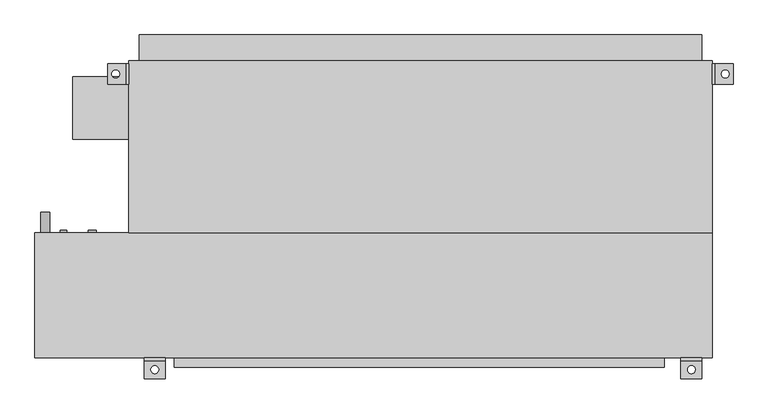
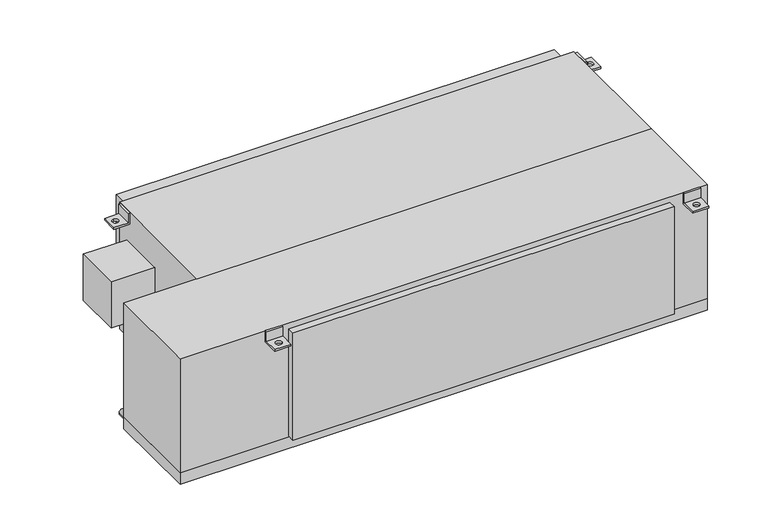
"""IFC4 building model written with IfcOpenShell, lengths in millimetres: proxy geometry, Concealed_High_Capacity_Horizontal_Fan_Coil_Unit_With_Plenum_-_42DCA_-_CARRIER_-_4-Pipe_ValveEnclosure_LH_2022 : Size 20 - 277v/60Hz/1Ph - 6/2 Coil."""

from ifc_helpers import new_model, si_unit, point, frame, frame_2d, origin, place, context, project, spatial, polyline, circle_curve, trimmed, segment, composite_curve, outline, extrude, source, transform, mapped, element, save
from ifc_brep_helpers import plane_surface, revolved_surface, advanced_brep


def mechanical_equipment_c19a59ca(model_context):
    return source(origin(), model_context, "Body", "SolidModel", [
        advanced_brep(
        [(838.2, -390.525, 0.0), (838.2, -396.875, 0.0), (838.2, -396.875, -31.75), (838.2, -441.325, -31.75), (838.2, -441.325, -38.1), (838.2, -390.525, -38.1), (787.4, -390.525, 0.0), (787.4, -390.525, -38.1), (787.4, -441.325, -38.1), (787.4, -441.325, -31.75), (787.4, -396.875, -31.75), (787.4, -396.875, 0.0), (803.275, -419.1, -31.75), (822.325, -419.1, -31.75), (822.325, -419.1, -38.1), (803.275, -419.1, -38.1)],
        [
            (0, 1),
            (1, 2),
            (2, 3),
            (3, 4),
            (4, 5),
            (5, 0),
            (6, 7),
            (7, 8),
            (8, 9),
            (9, 10),
            (10, 11),
            (11, 6),
            (0, 6),
            (11, 1),
            (10, 2),
            (9, 3),
            (12, 13, circle_curve(frame((812.8, -419.1, -31.75), z_axis=(0.0, 0.0, -1.0), x_axis=(1.0, 0.0, 0.0)), 9.525)),
            (13, 12, circle_curve(frame((812.8, -419.1, -31.75), z_axis=(0.0, 0.0, -1.0), x_axis=(1.0, 0.0, 0.0)), 9.525)),
            (8, 4),
            (7, 5),
            (14, 15, circle_curve(frame((812.8, -419.1, -38.1), z_axis=(0.0, 0.0, 1.0), x_axis=(1.0, 0.0, 0.0)), 9.525)),
            (15, 14, circle_curve(frame((812.8, -419.1, -38.1), z_axis=(0.0, 0.0, 1.0), x_axis=(1.0, 0.0, 0.0)), 9.525)),
            (12, 15),
            (14, 13),
        ],
        [
            plane_surface(frame((838.2, -396.875, 0.0), z_axis=(1.0, 0.0, 0.0), x_axis=(0.0, -1.0, 0.0))),
            plane_surface(frame((787.4, -396.875, 0.0), z_axis=(-1.0, 0.0, 0.0), x_axis=(0.0, 1.0, 0.0))),
            plane_surface(frame((838.2, -390.525, 0.0), z_axis=(0.0, 0.0, 1.0), x_axis=(-1.0, 0.0, 0.0))),
            plane_surface(frame((838.2, -396.875, 0.0), z_axis=(0.0, -1.0, 0.0), x_axis=(-1.0, 0.0, 0.0))),
            plane_surface(frame((838.2, -396.875, -31.75), z_axis=(0.0, 0.0, 1.0), x_axis=(-1.0, 0.0, 0.0))),
            plane_surface(frame((838.2, -441.325, -31.75), z_axis=(0.0, -1.0, 0.0), x_axis=(-1.0, 0.0, 0.0))),
            plane_surface(frame((838.2, -441.325, -38.1), z_axis=(0.0, 0.0, -1.0), x_axis=(-1.0, 0.0, 0.0))),
            plane_surface(frame((838.2, -390.525, -38.1), z_axis=(0.0, 1.0, 0.0), x_axis=(-1.0, 0.0, 0.0))),
            revolved_surface(polyline([(822.3249999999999, -419.1, -38.1), (822.3249999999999, -419.1, -31.75)]), (812.8, -419.1, -31.75), (0.0, 0.0, -1.0)),
        ],
        [
            (0, [[1, 2, 3, 4, 5, 6]]),
            (1, [[7, 8, 9, 10, 11, 12]]),
            (2, [[-1, 13, -12, 14]]),
            (3, [[-2, -14, -11, 15]]),
            (4, [[-3, -15, -10, 16], [17, 18]]),
            (5, [[-4, -16, -9, 19]]),
            (6, [[-5, -19, -8, 20], [21, 22]]),
            (7, [[-6, -20, -7, -13]]),
            (8, [[23, -21, 24, -17]]),
            (8, [[-23, -18, -24, -22]]),
        ],
    ),
        advanced_brep(
        [(-469.9, -390.525, -38.1), (-469.9, -390.525, 0.0), (-469.9, -396.875, 0.0), (-469.9, -396.875, -31.75), (-469.9, -441.325, -31.75), (-469.9, -441.325, -38.1), (-520.7, -390.525, -38.1), (-520.7, -441.325, -38.1), (-520.7, -441.325, -31.75), (-520.7, -396.875, -31.75), (-520.7, -396.875, 0.0), (-520.7, -390.525, 0.0), (-504.825, -419.1, -31.75), (-485.775, -419.1, -31.75), (-485.775, -419.1, -38.1), (-504.825, -419.1, -38.1)],
        [
            (0, 1),
            (1, 2),
            (2, 3),
            (3, 4),
            (4, 5),
            (5, 0),
            (6, 7),
            (7, 8),
            (8, 9),
            (9, 10),
            (10, 11),
            (11, 6),
            (0, 6),
            (11, 1),
            (10, 2),
            (9, 3),
            (8, 4),
            (12, 13, circle_curve(frame((-495.3, -419.1, -31.75), z_axis=(0.0, 0.0, -1.0), x_axis=(1.0, 0.0, 0.0)), 9.525)),
            (13, 12, circle_curve(frame((-495.3, -419.1, -31.75), z_axis=(0.0, 0.0, -1.0), x_axis=(1.0, 0.0, 0.0)), 9.525)),
            (7, 5),
            (14, 15, circle_curve(frame((-495.3, -419.1, -38.1), z_axis=(0.0, 0.0, 1.0), x_axis=(1.0, 0.0, 0.0)), 9.525)),
            (15, 14, circle_curve(frame((-495.3, -419.1, -38.1), z_axis=(0.0, 0.0, 1.0), x_axis=(1.0, 0.0, 0.0)), 9.525)),
            (12, 15),
            (14, 13),
        ],
        [
            plane_surface(frame((-469.9, -390.525, -38.1), z_axis=(1.0, 0.0, 0.0), x_axis=(0.0, 0.0, 1.0))),
            plane_surface(frame((-520.7, -390.525, -38.1), z_axis=(-1.0, 0.0, 0.0), x_axis=(0.0, 0.0, -1.0))),
            plane_surface(frame((-469.9, -390.525, -38.1), z_axis=(0.0, 1.0, 0.0), x_axis=(-1.0, 0.0, 0.0))),
            plane_surface(frame((-469.9, -390.525, 0.0), z_axis=(0.0, 0.0, 1.0), x_axis=(-1.0, 0.0, 0.0))),
            plane_surface(frame((-469.9, -396.875, 0.0), z_axis=(0.0, -1.0, 0.0), x_axis=(-1.0, 0.0, 0.0))),
            plane_surface(frame((-469.9, -396.875, -31.75), z_axis=(0.0, 0.0, 1.0), x_axis=(-1.0, 0.0, 0.0))),
            plane_surface(frame((-469.9, -441.325, -31.75), z_axis=(0.0, -1.0, 0.0), x_axis=(-1.0, 0.0, 0.0))),
            plane_surface(frame((-469.9, -441.325, -38.1), z_axis=(0.0, 0.0, -1.0), x_axis=(-1.0, 0.0, 0.0))),
            revolved_surface(polyline([(-485.77500000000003, -419.1, -38.1), (-485.77500000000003, -419.1, -31.75)]), (-495.3, -419.1, -31.75), (0.0, 0.0, -1.0)),
        ],
        [
            (0, [[1, 2, 3, 4, 5, 6]]),
            (1, [[7, 8, 9, 10, 11, 12]]),
            (2, [[-1, 13, -12, 14]]),
            (3, [[-2, -14, -11, 15]]),
            (4, [[-3, -15, -10, 16]]),
            (5, [[-4, -16, -9, 17], [18, 19]]),
            (6, [[-5, -17, -8, 20]]),
            (7, [[-6, -20, -7, -13], [21, 22]]),
            (8, [[23, -21, 24, -18]]),
            (8, [[-23, -19, -24, -22]]),
        ],
    ),
        extrude(outline(composite_curve([segment(trimmed(circle_curve(frame_2d((-400.05, -762.0)), 11.1125), [point((-400.05, -773.1125))], [point((-400.05, -750.8875))], False, "CARTESIAN"), True, "CONTINUOUS"), segment(trimmed(circle_curve(frame_2d((-400.05, -762.0)), 11.1125), [point((-400.05, -750.8875))], [point((-400.05, -773.1125))], False, "CARTESIAN"), True, "CONTINUOUS")], self_intersect=False)), frame((0.0, -85.725, 0.0), z_axis=(0.0, 1.0, 0.0), x_axis=(0.0, 0.0, 1.0)), (0.0, 0.0, 1.0), 50.8),
        extrude(outline(composite_curve([segment(trimmed(circle_curve(frame_2d((-44.45, -647.7)), 9.525), [point((-44.45, -657.225))], [point((-44.45, -638.175))], False, "CARTESIAN"), True, "CONTINUOUS"), segment(trimmed(circle_curve(frame_2d((-44.45, -647.7)), 9.525), [point((-44.45, -638.175))], [point((-44.45, -657.225))], False, "CARTESIAN"), True, "CONTINUOUS")], self_intersect=False)), frame((0.0, -85.725, 0.0), z_axis=(0.0, 1.0, 0.0), x_axis=(0.0, 0.0, 1.0)), (0.0, 0.0, 1.0), 6.35),
        extrude(outline(composite_curve([segment(trimmed(circle_curve(frame_2d((-276.225, -647.7)), 9.525), [point((-276.225, -657.225))], [point((-276.225, -638.175))], False, "CARTESIAN"), True, "CONTINUOUS"), segment(trimmed(circle_curve(frame_2d((-276.225, -647.7)), 9.525), [point((-276.225, -638.175))], [point((-276.225, -657.225))], False, "CARTESIAN"), True, "CONTINUOUS")], self_intersect=False)), frame((0.0, -85.725, 0.0), z_axis=(0.0, 1.0, 0.0), x_axis=(0.0, 0.0, 1.0)), (0.0, 0.0, 1.0), 6.35),
        extrude(outline(composite_curve([segment(trimmed(circle_curve(frame_2d((-69.85, -717.55)), 7.9375), [point((-69.85, -725.4875))], [point((-69.85, -709.6125))], False, "CARTESIAN"), True, "CONTINUOUS"), segment(trimmed(circle_curve(frame_2d((-69.85, -717.55)), 7.9375), [point((-69.85, -709.6125))], [point((-69.85, -725.4875))], False, "CARTESIAN"), True, "CONTINUOUS")], self_intersect=False)), frame((0.0, -85.725, 0.0), z_axis=(0.0, 1.0, 0.0), x_axis=(0.0, 0.0, 1.0)), (0.0, 0.0, 1.0), 6.35),
        extrude(outline(composite_curve([segment(trimmed(circle_curve(frame_2d((-285.75, -717.55)), 7.9375), [point((-285.75, -725.4875))], [point((-285.75, -709.6125))], False, "CARTESIAN"), True, "CONTINUOUS"), segment(trimmed(circle_curve(frame_2d((-285.75, -717.55)), 7.9375), [point((-285.75, -709.6125))], [point((-285.75, -725.4875))], False, "CARTESIAN"), True, "CONTINUOUS")], self_intersect=False)), frame((0.0, -85.725, 0.0), z_axis=(0.0, 1.0, 0.0), x_axis=(0.0, 0.0, 1.0)), (0.0, 0.0, 1.0), 6.35),
        advanced_brep(
        [(-558.8, 327.025, -38.1), (-609.6, 327.025, -38.1), (-609.6, 327.025, -31.75), (-565.15, 327.025, -31.75), (-565.15, 327.025, 0.0), (-558.8, 327.025, 0.0), (-558.8, 276.225, -38.1), (-558.8, 276.225, 0.0), (-565.15, 276.225, 0.0), (-565.15, 276.225, -31.75), (-609.6, 276.225, -31.75), (-609.6, 276.225, -38.1), (-590.55, 292.1, -38.1), (-590.55, 311.15, -38.1), (-590.55, 311.15, -31.75), (-590.55, 292.1, -31.75)],
        [
            (0, 1),
            (1, 2),
            (2, 3),
            (3, 4),
            (4, 5),
            (5, 0),
            (6, 7),
            (7, 8),
            (8, 9),
            (9, 10),
            (10, 11),
            (11, 6),
            (0, 6),
            (11, 1),
            (12, 13, circle_curve(frame((-590.55, 301.625, -38.1), z_axis=(0.0, 0.0, 1.0), x_axis=(0.0, -1.0, 0.0)), 9.525)),
            (13, 12, circle_curve(frame((-590.55, 301.625, -38.1), z_axis=(0.0, 0.0, 1.0), x_axis=(0.0, -1.0, 0.0)), 9.525)),
            (10, 2),
            (9, 3),
            (14, 15, circle_curve(frame((-590.55, 301.625, -31.75), z_axis=(0.0, 0.0, -1.0), x_axis=(0.0, -1.0, 0.0)), 9.525)),
            (15, 14, circle_curve(frame((-590.55, 301.625, -31.75), z_axis=(0.0, 0.0, -1.0), x_axis=(0.0, -1.0, 0.0)), 9.525)),
            (8, 4),
            (7, 5),
            (14, 13),
            (12, 15),
        ],
        [
            plane_surface(frame((-558.8, 327.025, -38.1), z_axis=(0.0, 1.0, 0.0), x_axis=(-1.0, 0.0, 0.0))),
            plane_surface(frame((-558.8, 276.225, -38.1), z_axis=(0.0, -1.0, 0.0), x_axis=(1.0, 0.0, 0.0))),
            plane_surface(frame((-558.8, 327.025, -38.1), z_axis=(0.0, 0.0, -1.0), x_axis=(0.0, -1.0, 0.0))),
            plane_surface(frame((-609.6, 327.025, -38.1), z_axis=(-1.0, 0.0, 0.0), x_axis=(0.0, -1.0, 0.0))),
            plane_surface(frame((-609.6, 327.025, -31.75), z_axis=(0.0, 0.0, 1.0), x_axis=(0.0, -1.0, 0.0))),
            plane_surface(frame((-565.15, 327.025, -31.75), z_axis=(-1.0, 0.0, 0.0), x_axis=(0.0, -1.0, 0.0))),
            plane_surface(frame((-565.15, 327.025, 0.0), z_axis=(0.0, 0.0, 1.0), x_axis=(0.0, -1.0, 0.0))),
            plane_surface(frame((-558.8, 327.025, 0.0), z_axis=(1.0, 0.0, 0.0), x_axis=(0.0, -1.0, 0.0))),
            revolved_surface(polyline([(-590.55, 292.1, -38.1), (-590.55, 292.1, -31.75)]), (-590.55, 301.625, -31.75), (0.0, 0.0, -1.0)),
        ],
        [
            (0, [[1, 2, 3, 4, 5, 6]]),
            (1, [[7, 8, 9, 10, 11, 12]]),
            (2, [[-1, 13, -12, 14], [15, 16]]),
            (3, [[-2, -14, -11, 17]]),
            (4, [[-3, -17, -10, 18], [19, 20]]),
            (5, [[-4, -18, -9, 21]]),
            (6, [[-5, -21, -8, 22]]),
            (7, [[-6, -22, -7, -13]]),
            (8, [[23, -15, 24, -19]]),
            (8, [[-23, -20, -24, -16]]),
        ],
    ),
        advanced_brep(
        [(863.6, 327.025, -38.1), (863.6, 327.025, 0.0), (869.95, 327.025, 0.0), (869.95, 327.025, -31.75), (914.4, 327.025, -31.75), (914.4, 327.025, -38.1), (863.6, 276.225, -38.1), (914.4, 276.225, -38.1), (914.4, 276.225, -31.75), (869.95, 276.225, -31.75), (869.95, 276.225, 0.0), (863.6, 276.225, 0.0), (895.35, 311.15, -31.75), (895.35, 292.1, -31.75), (895.35, 292.1, -38.1), (895.35, 311.15, -38.1)],
        [
            (0, 1),
            (1, 2),
            (2, 3),
            (3, 4),
            (4, 5),
            (5, 0),
            (6, 7),
            (7, 8),
            (8, 9),
            (9, 10),
            (10, 11),
            (11, 6),
            (0, 6),
            (11, 1),
            (10, 2),
            (9, 3),
            (8, 4),
            (12, 13, circle_curve(frame((895.35, 301.625, -31.75), z_axis=(0.0, 0.0, -1.0), x_axis=(0.0, -1.0, 0.0)), 9.525)),
            (13, 12, circle_curve(frame((895.35, 301.625, -31.75), z_axis=(0.0, 0.0, -1.0), x_axis=(0.0, -1.0, 0.0)), 9.525)),
            (7, 5),
            (14, 15, circle_curve(frame((895.35, 301.625, -38.1), z_axis=(0.0, 0.0, 1.0), x_axis=(0.0, -1.0, 0.0)), 9.525)),
            (15, 14, circle_curve(frame((895.35, 301.625, -38.1), z_axis=(0.0, 0.0, 1.0), x_axis=(0.0, -1.0, 0.0)), 9.525)),
            (12, 15),
            (14, 13),
        ],
        [
            plane_surface(frame((-558.8, 327.025, -38.1), z_axis=(0.0, 1.0, 0.0), x_axis=(-1.0, 0.0, 0.0))),
            plane_surface(frame((-558.8, 276.225, -38.1), z_axis=(0.0, -1.0, 0.0), x_axis=(1.0, 0.0, 0.0))),
            plane_surface(frame((863.6, 327.025, -38.1), z_axis=(-1.0, 0.0, 0.0), x_axis=(0.0, -1.0, 0.0))),
            plane_surface(frame((863.6, 327.025, 0.0), z_axis=(0.0, 0.0, 1.0), x_axis=(0.0, -1.0, 0.0))),
            plane_surface(frame((869.95, 327.025, 0.0), z_axis=(1.0, 0.0, 0.0), x_axis=(0.0, -1.0, 0.0))),
            plane_surface(frame((869.95, 327.025, -31.75), z_axis=(0.0, 0.0, 1.0), x_axis=(0.0, -1.0, 0.0))),
            plane_surface(frame((914.4, 327.025, -31.75), z_axis=(1.0, 0.0, 0.0), x_axis=(0.0, -1.0, 0.0))),
            plane_surface(frame((914.4, 327.025, -38.1), z_axis=(0.0, 0.0, -1.0), x_axis=(0.0, -1.0, 0.0))),
            revolved_surface(polyline([(895.35, 292.1, -38.1), (895.35, 292.1, -31.75)]), (895.35, 301.625, -31.75), (0.0, 0.0, -1.0)),
        ],
        [
            (0, [[1, 2, 3, 4, 5, 6]]),
            (1, [[7, 8, 9, 10, 11, 12]]),
            (2, [[-1, 13, -12, 14]]),
            (3, [[-2, -14, -11, 15]]),
            (4, [[-3, -15, -10, 16]]),
            (5, [[-4, -16, -9, 17], [18, 19]]),
            (6, [[-5, -17, -8, 20]]),
            (7, [[-6, -20, -7, -13], [21, 22]]),
            (8, [[23, -21, 24, -18]]),
            (8, [[-23, -19, -24, -22]]),
        ],
    ),
        extrude(outline(polyline([(-533.4, 396.875), (838.2, 396.875), (838.2, 333.375), (-533.4, 333.375), (-533.4, 396.875)])), frame((0.0, 0.0, -377.825), z_axis=(0.0, 0.0, 1.0), x_axis=(1.0, 0.0, 0.0)), (0.0, 0.0, 1.0), 355.6),
        extrude(outline(polyline([(-695.325, 142.875), (-695.325, 295.275), (-558.8, 295.275), (-558.8, 142.875), (-695.325, 142.875)])), frame((0.0, 0.0, -254.0), z_axis=(0.0, 0.0, 1.0), x_axis=(1.0, 0.0, 0.0)), (0.0, 0.0, 1.0), 152.4),
        extrude(outline(polyline([(746.125, -412.75), (-447.675, -412.75), (-447.675, -390.525), (746.125, -390.525), (746.125, -412.75)])), frame((0.0, 0.0, -374.65), z_axis=(0.0, 0.0, 1.0), x_axis=(1.0, 0.0, 0.0)), (0.0, 0.0, 1.0), 355.6),
        extrude(outline(polyline([(863.6, -85.725), (-558.8, -85.725), (-558.8, 333.375), (863.6, 333.375), (863.6, -85.725)])), frame((0.0, 0.0, -419.1), z_axis=(0.0, 0.0, 1.0), x_axis=(1.0, 0.0, 0.0)), (0.0, 0.0, 1.0), 419.1),
        extrude(outline(polyline([(863.6, -85.725), (863.6, -390.525), (-787.4, -390.525), (-787.4, -85.725), (863.6, -85.725)])), frame((0.0, 0.0, -377.825), z_axis=(0.0, 0.0, 1.0), x_axis=(1.0, 0.0, 0.0)), (0.0, 0.0, 1.0), 377.825),
        extrude(outline(polyline([(863.6, -85.725), (863.6, -390.525), (-787.4, -390.525), (-787.4, -85.725), (863.6, -85.725)])), frame((0.0, 0.0, -415.925), z_axis=(0.0, 0.0, 1.0), x_axis=(1.0, 0.0, 0.0)), (0.0, 0.0, 1.0), 38.1),
    ])


if __name__ == "__main__":
    model = new_model("IFC4")
    model_context = context("Model", 3, world=origin())
    ifc_project = project(units=[si_unit("LENGTHUNIT", "METRE", prefix="MILLI")], contexts=[model_context])
    site = spatial("IfcSite", under=ifc_project)
    building = spatial("IfcBuilding", under=site)
    placement = place(None, origin())
    mechanical_equipment_shape = mechanical_equipment_c19a59ca(model_context)
    element("IfcBuildingElementProxy", 1, Name="Concealed_High_Capacity_Horizontal_Fan_Coil_Unit_With_Plenum_-_42DCA_-_CARRIER_-_4-Pipe_ValveEnclosure_LH_2022 : Size 20 - 277v/60Hz/1Ph - 6/2 Coil", ObjectType="Concealed_High_Capacity_Horizontal_Fan_Coil_Unit_With_Plenum_-_42DCA_-_CARRIER_-_4-Pipe_ValveEnclosure_LH_2022 : Size 20 - 277v/60Hz/1Ph - 6/2 Coil", at=placement, inside=building, context=model_context, shape_type="MappedRepresentation", body=[
        mapped(mechanical_equipment_shape, transform((0.0, 0.0, 0.0), x_axis=(1.0, 0.0, 0.0), y_axis=(0.0, 1.0, 0.0), z_axis=(0.0, 0.0, 1.0))),
    ])
    save(model, "model.ifc")
